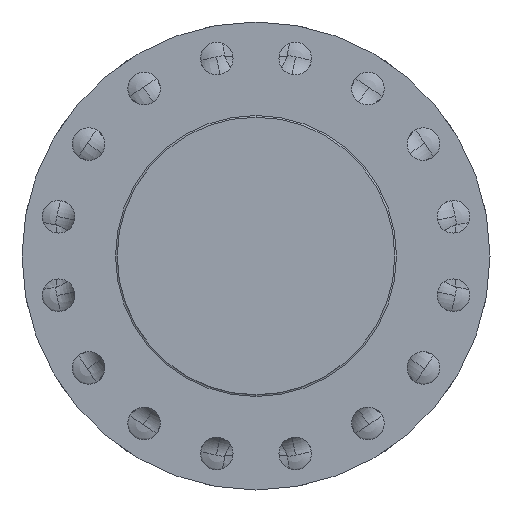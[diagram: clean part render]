
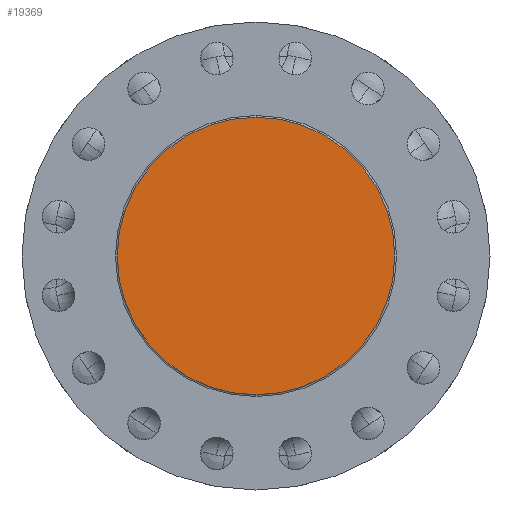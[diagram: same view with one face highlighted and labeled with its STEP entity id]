
A CAD part, left-side view. The second image highlights one B-rep face of the part: STEP entity #19369.
In plain terms, the highlighted planar face has unit normal (-1, 0, 0).
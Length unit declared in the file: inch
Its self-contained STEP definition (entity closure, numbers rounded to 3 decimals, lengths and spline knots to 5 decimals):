
#447 = CARTESIAN_POINT ( 'NONE',  ( -8.855, 0., 0. ) ) ;
#1131 = VERTEX_POINT ( 'NONE', #1545 ) ;
#1392 = EDGE_CURVE ( 'NONE', #1131, #23477, #1986, .T. ) ;
#1545 = CARTESIAN_POINT ( 'NONE',  ( -8.855, 0., 6.375 ) ) ;
#1714 = DIRECTION ( 'NONE',  ( 0., 0., 1. ) ) ;
#1818 = AXIS2_PLACEMENT_3D ( 'NONE', #26379, #14069, #1714 ) ;
#1943 = DIRECTION ( 'NONE',  ( -1., 0., 0. ) ) ;
#1986 = CIRCLE ( 'NONE', #15412, 6.375 ) ;
#2518 = DIRECTION ( 'NONE',  ( 0., 0., 1. ) ) ;
#7988 = ORIENTED_EDGE ( 'NONE', *, *, #20004, .T. ) ;
#10113 = CARTESIAN_POINT ( 'NONE',  ( -8.855, 0., -6.375 ) ) ;
#14069 = DIRECTION ( 'NONE',  ( -1., 0., 0. ) ) ;
#14282 = PLANE ( 'NONE',  #24046 ) ;
#14849 = DIRECTION ( 'NONE',  ( -1., 0., 0. ) ) ;
#15412 = AXIS2_PLACEMENT_3D ( 'NONE', #447, #14849, #2518 ) ;
#16370 = DIRECTION ( 'NONE',  ( 0., 0., 1. ) ) ;
#19369 = ADVANCED_FACE ( 'NONE', ( #23817 ), #14282, .T. ) ;
#20004 = EDGE_CURVE ( 'NONE', #23477, #1131, #23791, .T. ) ;
#20365 = CARTESIAN_POINT ( 'NONE',  ( -8.855, 0., 0. ) ) ;
#21491 = EDGE_LOOP ( 'NONE', ( #23125, #7988 ) ) ;
#23125 = ORIENTED_EDGE ( 'NONE', *, *, #1392, .T. ) ;
#23477 = VERTEX_POINT ( 'NONE', #10113 ) ;
#23791 = CIRCLE ( 'NONE', #1818, 6.375 ) ;
#23817 = FACE_OUTER_BOUND ( 'NONE', #21491, .T. ) ;
#24046 = AXIS2_PLACEMENT_3D ( 'NONE', #20365, #1943, #16370 ) ;
#26379 = CARTESIAN_POINT ( 'NONE',  ( -8.855, 0., 0. ) ) ;
